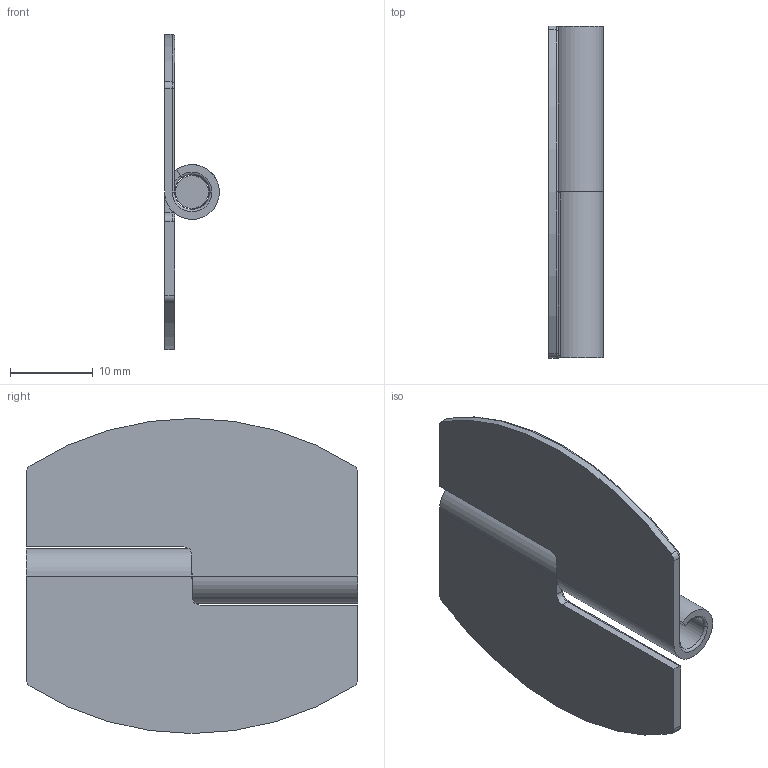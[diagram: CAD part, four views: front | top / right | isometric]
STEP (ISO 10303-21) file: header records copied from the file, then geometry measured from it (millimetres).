
FILE_DESCRIPTION (( 'STEP AP203' ), '1' );
FILE_NAME ('DEH-38-3R-1.STEP', '2013-08-14T06:45:32', ( '中村　妙子' ), ( 'ＮＴ設計' ), 'SwSTEP 2.0', 'SolidWorks 2002296', '' );
FILE_SCHEMA (( 'CONFIG_CONTROL_DESIGN' ));
Length unit declared in the file: millimetre
Products named in the file (3): DEH-38-3R-1; DEH-38-3R-1_蹬怮椔; DEH-38-3R-2_蹬怮椔
Assembly tree (2 placements, depth 2):
  DEH-38-3R-1
    DEH-38-3R-1_蹬怮椔
    DEH-38-3R-2_蹬怮椔
Bounding box: 6.6 x 40 x 38 mm (x, y, z)
Volume: 2389.3 mm3; surface area: 4166.4 mm2
Topology: 3 solids, 3 shells, 45 faces, 112 edges, 71 vertices
Faces by surface type: cylinder 19, plane 15, torus 9, sphere 2
Entity records: 1652 total; most frequent: DIRECTION 271, CARTESIAN_POINT 231, ORIENTED_EDGE 220, AXIS2_PLACEMENT_3D 111, EDGE_CURVE 110, VERTEX_POINT 71, CIRCLE 61, LINE 49
